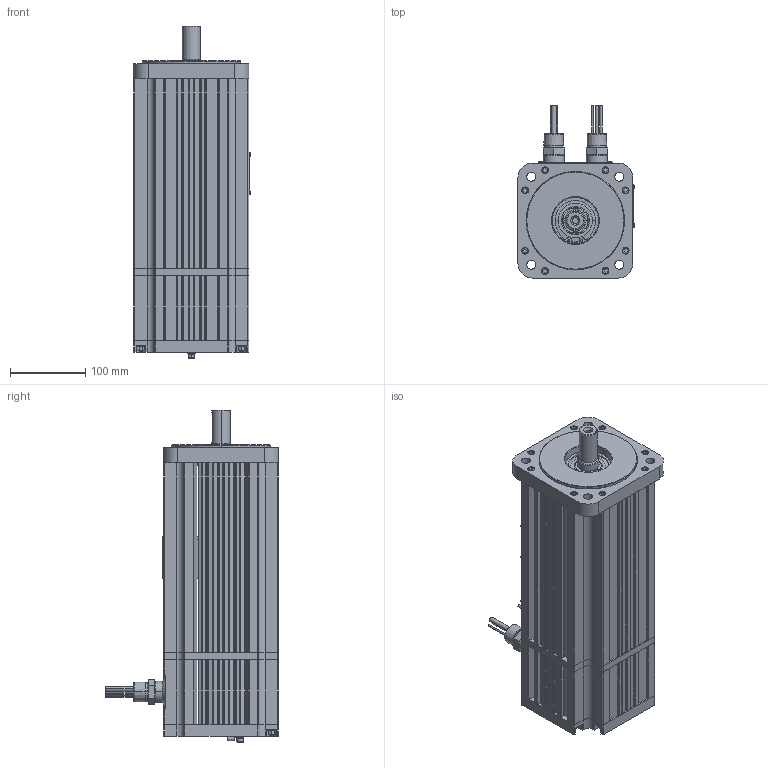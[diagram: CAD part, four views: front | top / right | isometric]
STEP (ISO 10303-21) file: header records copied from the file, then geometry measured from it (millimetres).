
FILE_DESCRIPTION (( 'STEP AP203' ), '1' );
FILE_NAME ('M463-KNS0-9T08.STEP', '2010-08-17T18:39:24', ( '' ), ( '' ), 'SwSTEP 2.0', 'SolidWorks 2010', '' );
FILE_SCHEMA (( 'CONFIG_CONTROL_DESIGN' ));
Length unit declared in the file: inch
Products named in the file (1): M463-KNS0-9T08
Bounding box: 154.08 x 229.36 x 440.2 mm (x, y, z)
Surface area: 385708.2 mm2 (no closed solid volume)
Topology: 0 solids, 96 shells, 1096 faces, 4537 edges, 3516 vertices
Faces by surface type: plane 571, cylinder 396, cone 67, bspline 39, torus 23
Entity records: 54666 total; most frequent: CARTESIAN_POINT 18097, DIRECTION 7282, ORIENTED_EDGE 6557, EDGE_CURVE 4537, VERTEX_POINT 3516, VECTOR 2952, LINE 2952, AXIS2_PLACEMENT_3D 2165
